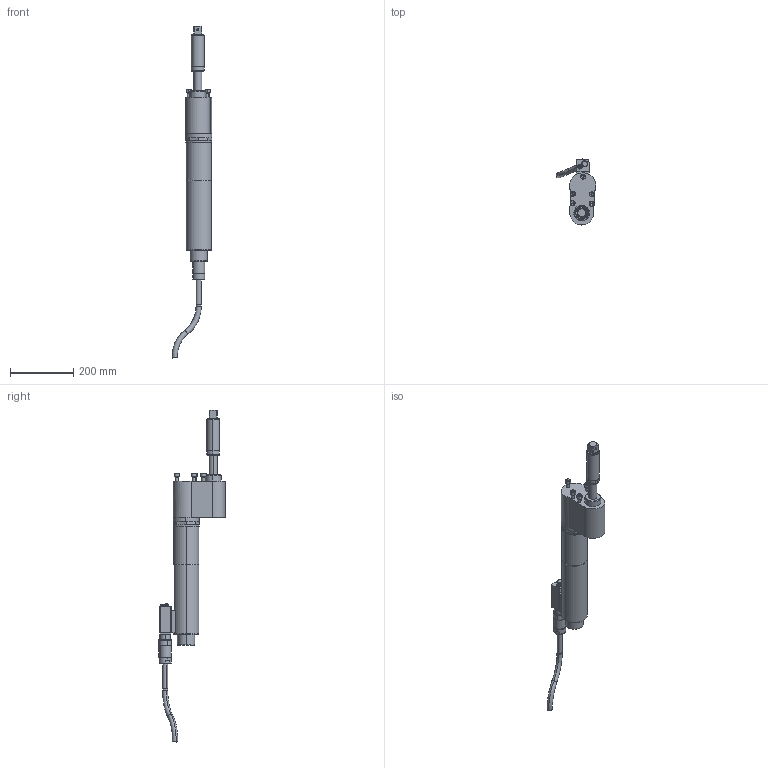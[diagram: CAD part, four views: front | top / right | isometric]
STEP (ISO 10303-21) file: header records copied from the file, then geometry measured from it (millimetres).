
FILE_DESCRIPTION(('CATIA V5 STEP'),'2;1');
FILE_NAME('O:\3D-Schrauber\stp\7920566_ECR334_AO3360_AllCATPart.stp','2010-05-05T11:12:35+00:00',('none'),('none'),'CATIA Version 5 Release 19 SP 3 (IN-10)','CATIA V5 STEP AP214','none');
FILE_SCHEMA(('AUTOMOTIVE_DESIGN { 1 0 10303 214 1 1 1 1 }'));
Length unit declared in the file: millimetre
Products named in the file (1): 7920566_ECR334_AO3360_AllCATPart
Bounding box: 125.3 x 209.91 x 1051.16 mm (x, y, z)
Volume: 3834475.8 mm3; surface area: 319368.8 mm2
Topology: 19 solids, 19 shells, 556 faces, 1333 edges, 852 vertices
Faces by surface type: cylinder 223, plane 217, cone 58, torus 54, sphere 4
Entity records: 17266 total; most frequent: CARTESIAN_POINT 5137, ORIENTED_EDGE 2654, DIRECTION 2006, EDGE_CURVE 1327, AXIS2_PLACEMENT_3D 994, VERTEX_POINT 852, EDGE_LOOP 603, ADVANCED_FACE 556
